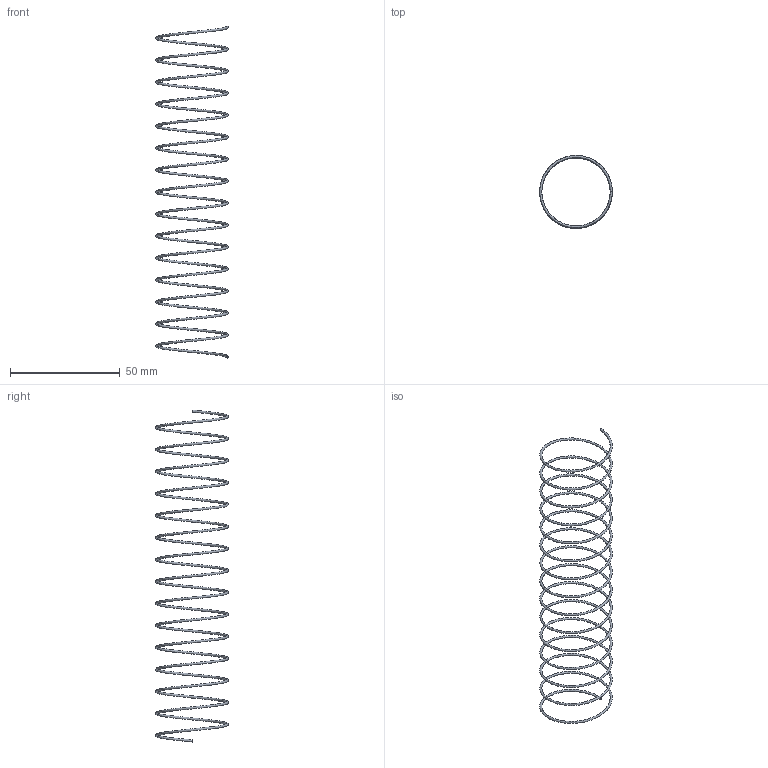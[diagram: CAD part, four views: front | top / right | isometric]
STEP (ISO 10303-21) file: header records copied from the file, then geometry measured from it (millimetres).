
FILE_DESCRIPTION( ( 'STEP AP203' ), '1' );
FILE_NAME( 'D:/Cuma/25 06 2009/D60.01/D60.01_32/D60.01_32150.step', '2003-02-03T14:17:43', ( ' ' ), ( ' ' ), 'XStep 1.0', ' ', ' ' );
FILE_SCHEMA( ( 'CONFIG_CONTROL_DESIGN' ) );
Length unit declared in the file: metre
Products named in the file (1): 1
Bounding box: 33 x 33 x 150.99 mm (x, y, z)
Volume: 1172.7 mm3; surface area: 4727.6 mm2
Topology: 1 solids, 1 shells, 3 faces, 3 edges, 2 vertices
Faces by surface type: plane 2, bspline 1
Entity records: 2519 total; most frequent: CARTESIAN_POINT 2437, DIRECTION 6, CC_DESIGN_PERSON_AND_ORGANIZATION_ASSIGNMENT 5, PERSON_AND_ORGANIZATION_ROLE 4, FACE_OUTER_BOUND 4, EDGE_LOOP 4, ORIENTED_EDGE 4, AXIS2_PLACEMENT_3D 3
